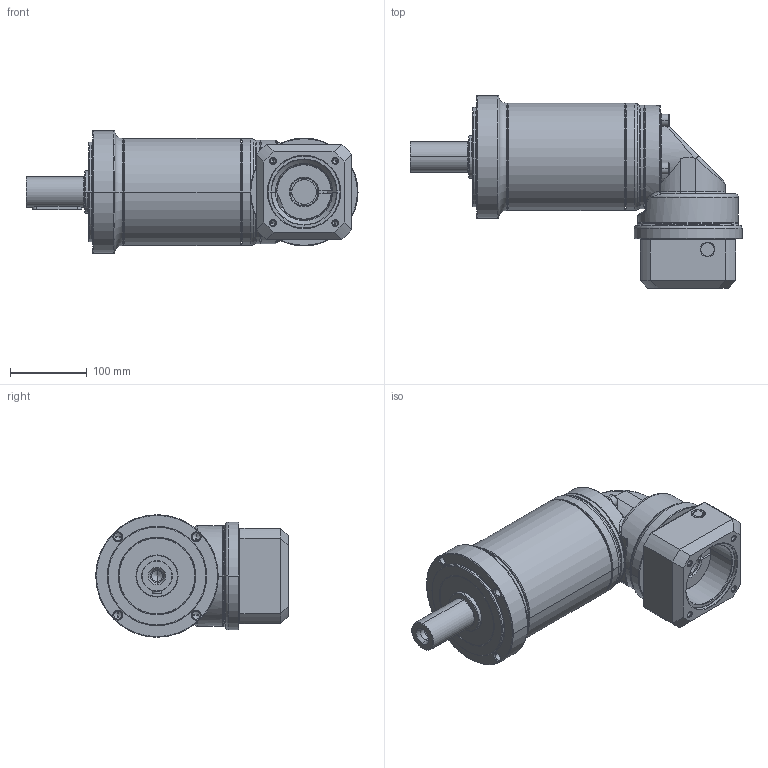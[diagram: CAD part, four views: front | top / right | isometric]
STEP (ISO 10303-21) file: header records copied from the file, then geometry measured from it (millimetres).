
FILE_DESCRIPTION((''),'2;1');
FILE_NAME('PG2R-160_3ST_32-P0411700101_ASM','2016-04-28T',('d01943'),(''),'PRO/ENGINEER BY PARAMETRIC TECHNOLOGY CORPORATION, 2008410','PRO/ENGINEER BY PARAMETRIC TECHNOLOGY CORPORATION, 2008410','');
FILE_SCHEMA(('CONFIG_CONTROL_DESIGN'));
Length unit declared in the file: millimetre
Products named in the file (12): P1325510001; P0273500001; P0350501103; P1349500001; P1017500001; P0713503001; P0503700010; P1350500301; P0411700101; P1702600001; 2111BA10040; PG2R-160_3ST_32-P0411700101_ASM
Assembly tree (14 placements, depth 2):
  PG2R-160_3ST_32-P0411700101_ASM
    P1325510001
    P0273500001
    P0350501103
    P1349500001
    P1017500001
    P0713503001
    P0503700010
    P1350500301
    P0411700101
    P1702600001
    2111BA10040  x4
Bounding box: 434 x 251.5 x 160 mm (x, y, z)
Volume: 3606558.6 mm3; surface area: 570057.9 mm2
Topology: 14 solids, 15 shells, 713 faces, 1570 edges, 910 vertices
Faces by surface type: cylinder 221, cone 198, plane 156, torus 106, bspline 32
Entity records: 22887 total; most frequent: CARTESIAN_POINT 9107, DIRECTION 3061, ORIENTED_EDGE 2664, EDGE_CURVE 1332, AXIS2_PLACEMENT_3D 1296, VERTEX_POINT 790, EDGE_LOOP 690, CIRCLE 688
